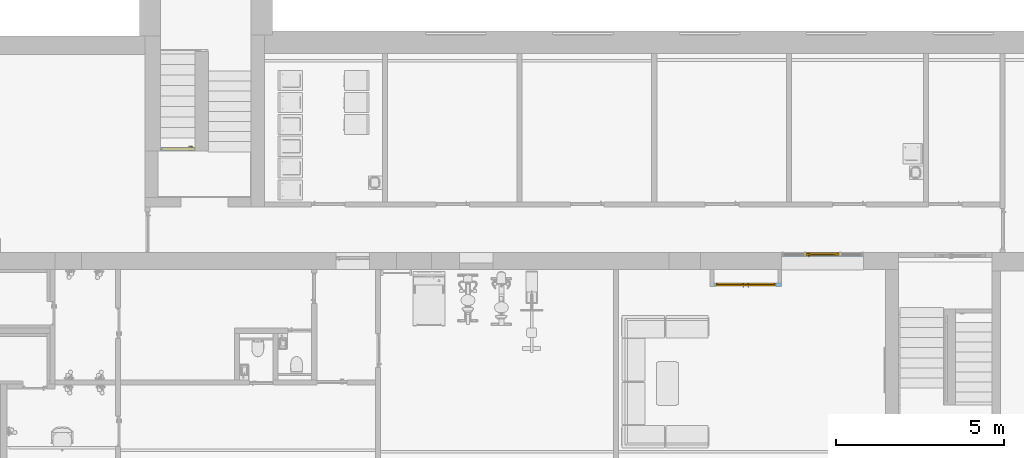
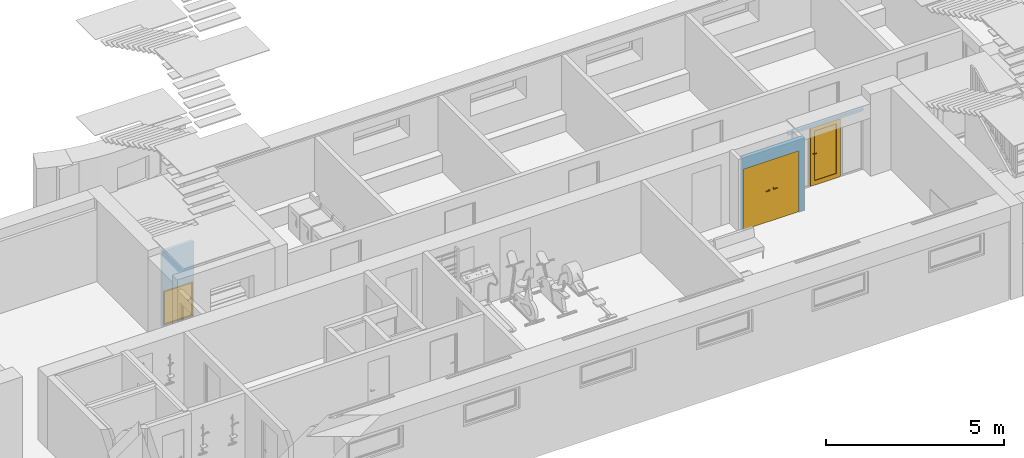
# One storey, part 13 of 23: 3 doors, 4 openings, plus 3 elements that do not belong to this part.
"""IFC2X3 building model written with IfcOpenShell, lengths in millimetres."""

from ifc_helpers import new_model, entity, si_unit, converted_unit, derived_unit, direction, frame, frame_2d, origin, origin_2d_with_axis, place, context, subcontext, project, spatial, rectangle, extrude, faceted_brep, source, transform, mapped, material, material_list, layer, layer_set, layer_usage, type_object, type_shapes, element, fill, save


model = new_model("IFC2X3")

# Units and contexts
model_context = context("Model", 3, precision=0.01, world=origin(), true_north=direction((6.12303176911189e-17, 1.0)))
body_context = subcontext(model_context, "Body", "Model", "MODEL_VIEW")
ifc_project = project(units=[si_unit("LENGTHUNIT", "METRE", prefix="MILLI"), si_unit("AREAUNIT", "SQUARE_METRE"), si_unit("VOLUMEUNIT", "CUBIC_METRE"), converted_unit("PLANEANGLEUNIT", "DEGREE", entity("IfcRatioMeasure", 0.0174532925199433), si_unit("PLANEANGLEUNIT", "RADIAN"), dimensions=[0, 0, 0, 0, 0, 0, 0]), si_unit("MASSUNIT", "GRAM", prefix="KILO"), derived_unit("MASSDENSITYUNIT", [(si_unit("MASSUNIT", "GRAM", prefix="KILO"), 1), (si_unit("LENGTHUNIT", "METRE"), -3)]), si_unit("TIMEUNIT", "SECOND"), si_unit("FREQUENCYUNIT", "HERTZ"), si_unit("THERMODYNAMICTEMPERATUREUNIT", "DEGREE_CELSIUS"), derived_unit("THERMALTRANSMITTANCEUNIT", [(si_unit("MASSUNIT", "GRAM", prefix="KILO"), 1), (si_unit("THERMODYNAMICTEMPERATUREUNIT", "KELVIN"), -1), (si_unit("TIMEUNIT", "SECOND"), -3)]), derived_unit("VOLUMETRICFLOWRATEUNIT", [(si_unit("LENGTHUNIT", "METRE"), 3), (si_unit("TIMEUNIT", "SECOND"), -1)]), si_unit("ELECTRICCURRENTUNIT", "AMPERE"), si_unit("ELECTRICVOLTAGEUNIT", "VOLT"), si_unit("POWERUNIT", "WATT"), si_unit("FORCEUNIT", "NEWTON", prefix="KILO"), si_unit("ILLUMINANCEUNIT", "LUX"), si_unit("LUMINOUSFLUXUNIT", "LUMEN"), si_unit("LUMINOUSINTENSITYUNIT", "CANDELA"), derived_unit("USERDEFINED", [(si_unit("MASSUNIT", "GRAM", prefix="KILO"), -1), (si_unit("LENGTHUNIT", "METRE"), -2), (si_unit("TIMEUNIT", "SECOND"), 3), (si_unit("LUMINOUSFLUXUNIT", "LUMEN"), 1)]), derived_unit("LINEARVELOCITYUNIT", [(si_unit("LENGTHUNIT", "METRE"), 1), (si_unit("TIMEUNIT", "SECOND"), -1)]), si_unit("PRESSUREUNIT", "PASCAL"), derived_unit("USERDEFINED", [(si_unit("LENGTHUNIT", "METRE"), -2), (si_unit("MASSUNIT", "GRAM", prefix="KILO"), 1), (si_unit("TIMEUNIT", "SECOND"), -2)]), derived_unit("LINEARFORCEUNIT", [(si_unit("MASSUNIT", "GRAM", prefix="KILO"), 1), (si_unit("LENGTHUNIT", "METRE"), 1), (si_unit("TIMEUNIT", "SECOND"), -2), (si_unit("LENGTHUNIT", "METRE"), -1)]), derived_unit("PLANARFORCEUNIT", [(si_unit("MASSUNIT", "GRAM", prefix="KILO"), 1), (si_unit("LENGTHUNIT", "METRE"), 1), (si_unit("TIMEUNIT", "SECOND"), -2), (si_unit("LENGTHUNIT", "METRE"), -2)])], contexts=[model_context])

# Site, building, storey
site_placement = place(None, origin())
site = spatial("IfcSite", under=ifc_project, at=site_placement, Name="Default", CompositionType="ELEMENT")
building_placement = place(site_placement, origin())
building = spatial("IfcBuilding", under=site, at=building_placement, Name="SMA ARH", CompositionType="ELEMENT")
storey_placement = place(building_placement, frame((0.0, 0.0, -2800.0)))
storey = spatial("IfcBuildingStorey", under=building, at=storey_placement, Name="0 Sokkel", CompositionType="ELEMENT", Elevation=-2800.0)

# Wall, opening, door
ifc_material_1 = material(Name="EST. Ehitusplaat. Kipsplaat")
ifc_layer_1 = layer(ifc_material_1, 12.5)
ifc_layer_2 = layer(ifc_material_1, 12.5)
ifc_material_2 = material(Name="EST. Soojustus. Mineraalvill. Default")
ifc_layer_3 = layer(ifc_material_2, 66.0)
ifc_layer_4 = layer(ifc_material_1, 12.5)
ifc_layer_5 = layer(ifc_material_1, 12.5)
ifc_layer_set_1 = layer_set([ifc_layer_1, ifc_layer_2, ifc_layer_3, ifc_layer_4, ifc_layer_5], Name="Basic Wall:SS-05_Kips, 66mm metallkarkass")
ifc_layer_usage_1 = layer_usage(ifc_layer_set_1, "AXIS2", "NEGATIVE", 58.0)
wall_type_1 = type_object("IfcWallType", Name="Basic Wall:SS-05_Kips, 66mm metallkarkass", PredefinedType="STANDARD", material=ifc_layer_set_1)
wall_1_placement = place(storey_placement, frame((25344.514781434, 5562.0, 0.0)))
wall_1 = element("IfcWallStandardCase", 1, at=wall_1_placement, inside=storey, type_object=wall_type_1, material=ifc_layer_usage_1, Name="Basic Wall:SS-05_Kips, 66mm metallkarkass", ObjectType="Basic Wall:SS-05_Kips, 66mm metallkarkass", context=body_context, shape_type="SweptSolid", body=[
    extrude(rectangle(XDim=2016.00000000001, YDim=116.0, at=frame_2d((1008.0, 0.0), x_axis=(-1.0, 0.0))), origin(), (0.0, 0.0, 1.0), 2480.0),
])
opening_1_placement = place(wall_1_placement, frame((1850.0, 58.0, 0.0)))
opening_1 = element("IfcOpeningElement", 2, at=opening_1_placement, cuts=wall_1, Name="SMA_D02, 2-poolne:SU-M-05 - 1800x2100:1", ObjectType="Opening", context=body_context, shape_type="SweptSolid", body=[
    extrude(rectangle(XDim=2099.99999999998, YDim=1800.0, at=frame_2d((1049.99999999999, 900.0), x_axis=(1.0, 0.0))), frame((0.0, 0.0, 0.0), z_axis=(0.0, -1.0, 0.0), x_axis=(0.0, 0.0, 1.0)), (0.0, 0.0, 1.0), 116.0),
])
ifc_material_3 = material(Name="EST. Metall. Plekk. Värvitud. RAL7023 (Concrete grey)")
ifc_material_4 = material(Name="<Unnamed>")
ifc_material_5 = material(Name="EST. Klaas. 3x. Default")
ifc_material_list_1 = material_list([ifc_material_4, ifc_material_3, ifc_material_3, ifc_material_3, ifc_material_4, ifc_material_5, ifc_material_4])
door_style_1 = type_object("IfcDoorStyle", Name="SMA_D02, 2-poolne:SU-M-05 - 1800x2100", ConstructionType="NOTDEFINED", OperationType="NOTDEFINED", ParameterTakesPrecedence=False, Sizeable=False, material=ifc_material_list_1)
shared_shape_1 = source(origin(), body_context, "Body", "Brep", [
    faceted_brep([(812.49999999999, 6.0, 1100.0), (717.49999999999, 6.0, 1100.0), (717.49999999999, 1.0, 1100.0), (837.49999999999, 1.0, 1100.0), (837.49999999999, 44.0, 1100.0), (812.49999999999, 44.0, 1100.0), (812.49999999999, 6.0, 1075.0), (812.49999999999, 44.0, 1075.0), (837.49999999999, 44.0, 1075.0), (837.49999999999, 1.0, 1075.0), (717.49999999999, 1.0, 1075.0), (717.49999999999, 6.0, 1075.0)], [[[0, 1, 2, 3, 4, 5]], [[6, 7, 8, 9, 10, 11]], [[5, 7, 6, 0]], [[4, 8, 7, 5]], [[3, 9, 8, 4]], [[2, 10, 9, 3]], [[1, 11, 10, 2]], [[0, 6, 11, 1]]]),
    faceted_brep([(800.0, 44.0, 1125.0), (850.0, 44.0, 1125.0), (850.0, 46.0, 1125.0), (800.0, 46.0, 1125.0), (800.0, 44.0, 1005.0), (800.0, 46.0, 1005.0), (850.0, 46.0, 1005.0), (850.0, 44.0, 1005.0)], [[[0, 1, 2, 3]], [[4, 5, 6, 7]], [[3, 5, 4, 0]], [[2, 6, 5, 3]], [[1, 7, 6, 2]], [[0, 4, 7, 1]]]),
    faceted_brep([(812.499999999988, 136.0, 1100.0), (812.499999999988, 98.0, 1100.0), (837.499999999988, 98.0, 1100.0), (837.499999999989, 141.0, 1100.0), (717.499999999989, 141.0, 1100.0), (717.499999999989, 136.0, 1100.0), (812.499999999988, 136.0, 1075.0), (717.499999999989, 136.0, 1075.0), (717.499999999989, 141.0, 1075.0), (837.499999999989, 141.0, 1075.0), (837.499999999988, 98.0, 1075.0), (812.499999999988, 98.0, 1075.0)], [[[0, 1, 2, 3, 4, 5]], [[6, 7, 8, 9, 10, 11]], [[1, 0, 6, 11]], [[2, 1, 11, 10]], [[3, 2, 10, 9]], [[4, 3, 9, 8]], [[5, 4, 8, 7]], [[0, 5, 7, 6]]]),
    faceted_brep([(800.0, 98.0, 1125.0), (800.0, 96.0, 1125.0), (850.0, 96.0, 1125.0), (850.0, 98.0, 1125.0), (800.0, 98.0, 1005.0), (850.0, 98.0, 1005.0), (850.0, 96.0, 1005.0), (800.0, 96.0, 1005.0)], [[[0, 1, 2, 3]], [[4, 5, 6, 7]], [[1, 0, 4, 7]], [[2, 1, 7, 6]], [[3, 2, 6, 5]], [[0, 3, 5, 4]]]),
    faceted_brep([(987.499999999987, 6.0, 1100.0), (987.499999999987, 44.0, 1100.0), (962.499999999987, 44.0, 1100.0), (962.499999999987, 1.0, 1100.0), (1082.49999999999, 1.0, 1100.0), (1082.49999999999, 6.0, 1100.0), (987.499999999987, 6.0, 1075.0), (1082.49999999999, 6.0, 1075.0), (1082.49999999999, 1.0, 1075.0), (962.499999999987, 1.0, 1075.0), (962.499999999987, 44.0, 1075.0), (987.499999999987, 44.0, 1075.0)], [[[0, 1, 2, 3, 4, 5]], [[6, 7, 8, 9, 10, 11]], [[1, 0, 6, 11]], [[2, 1, 11, 10]], [[3, 2, 10, 9]], [[4, 3, 9, 8]], [[5, 4, 8, 7]], [[0, 5, 7, 6]]]),
    faceted_brep([(1000.0, 44.0, 1125.0), (1000.0, 46.0, 1125.0), (950.0, 46.0, 1125.0), (950.0, 44.0, 1125.0), (1000.0, 44.0, 1005.0), (950.0, 44.0, 1005.0), (950.0, 46.0, 1005.0), (1000.0, 46.0, 1005.0)], [[[0, 1, 2, 3]], [[4, 5, 6, 7]], [[1, 0, 4, 7]], [[2, 1, 7, 6]], [[3, 2, 6, 5]], [[0, 3, 5, 4]]]),
    faceted_brep([(987.499999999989, 136.0, 1100.0), (1082.49999999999, 136.0, 1100.0), (1082.49999999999, 141.0, 1100.0), (962.499999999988, 141.0, 1100.0), (962.499999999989, 98.0, 1100.0), (987.499999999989, 98.0, 1100.0), (987.499999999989, 136.0, 1075.0), (987.499999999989, 98.0, 1075.0), (962.499999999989, 98.0, 1075.0), (962.499999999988, 141.0, 1075.0), (1082.49999999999, 141.0, 1075.0), (1082.49999999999, 136.0, 1075.0)], [[[0, 1, 2, 3, 4, 5]], [[6, 7, 8, 9, 10, 11]], [[5, 7, 6, 0]], [[4, 8, 7, 5]], [[3, 9, 8, 4]], [[2, 10, 9, 3]], [[1, 11, 10, 2]], [[0, 6, 11, 1]]]),
    faceted_brep([(1000.0, 98.0, 1125.0), (950.0, 98.0, 1125.0), (950.0, 96.0, 1125.0), (1000.0, 96.0, 1125.0), (1000.0, 98.0, 1005.0), (1000.0, 96.0, 1005.0), (950.0, 96.0, 1005.0), (950.0, 98.0, 1005.0)], [[[0, 1, 2, 3]], [[4, 5, 6, 7]], [[3, 5, 4, 0]], [[2, 6, 5, 3]], [[1, 7, 6, 2]], [[0, 4, 7, 1]]]),
    faceted_brep([(1750.0, 6.0, 30.0), (1750.0, 6.0, 0.0), (1750.0, 46.0, 0.0), (1750.0, 46.0, 20.0), (1750.0, 46.0, 30.0), (50.0, 6.0, 30.0), (50.0, 46.0, 30.0), (50.0, 46.0, 20.0), (50.0, 46.0, 0.0), (50.0, 6.0, 0.0), (35.0, 46.0, 0.0), (35.0, 96.0, 0.0), (1765.0, 96.0, 0.0), (1765.0, 46.0, 0.0), (1765.0, 96.0, 20.0), (1765.0, 46.0, 20.0), (35.0, 96.0, 20.0), (35.0, 46.0, 20.0)], [[[0, 1, 2, 3, 4]], [[5, 6, 7, 8, 9]], [[1, 0, 5, 9]], [[2, 1, 9, 8, 10, 11, 12, 13]], [[6, 4, 3, 7]], [[0, 4, 6, 5]], [[14, 15, 13, 12]], [[16, 11, 10, 17]], [[15, 14, 16, 17, 7, 3]], [[13, 15, 3, 2]], [[14, 12, 11, 16]], [[17, 10, 8, 7]]]),
    faceted_brep([(1790.0, 6.0, 0.0), (1750.0, 6.0, 0.0), (1750.0, 46.0, 0.0), (1765.0, 46.0, 0.0), (1765.0, 96.0, 0.0), (1790.0, 96.0, 0.0), (1790.0, 6.0, 2090.0), (10.0, 6.0, 2090.0), (10.0, 6.0, 0.0), (50.0, 6.0, 0.0), (50.0, 6.0, 2050.0), (1750.0, 6.0, 2050.0), (1750.0, 46.0, 2050.0), (50.0, 46.0, 2050.0), (50.0, 46.0, 0.0), (35.0, 46.0, 0.0), (35.0, 46.0, 2065.0), (1765.0, 46.0, 2065.0), (1765.0, 96.0, 2065.0), (35.0, 96.0, 2065.0), (35.0, 96.0, 0.0), (10.0, 96.0, 0.0), (10.0, 96.0, 2090.0), (1790.0, 96.0, 2090.0)], [[[0, 1, 2, 3, 4, 5]], [[1, 0, 6, 7, 8, 9, 10, 11]], [[2, 1, 11, 12]], [[3, 2, 12, 13, 14, 15, 16, 17]], [[4, 3, 17, 18]], [[5, 4, 18, 19, 20, 21, 22, 23]], [[0, 5, 23, 6]], [[8, 7, 22, 21]], [[9, 8, 21, 20, 15, 14]], [[10, 9, 14, 13]], [[16, 15, 20, 19]], [[11, 10, 13, 12]], [[17, 16, 19, 18]], [[7, 6, 23, 22]]]),
    faceted_brep([(35.0, 46.0, 20.0), (900.0, 46.0, 20.0), (900.0, 46.0, 2065.0), (35.0, 46.0, 2065.0), (35.0, 96.0, 20.0), (35.0, 96.0, 2065.0), (900.0, 96.0, 2065.0), (900.0, 96.0, 20.0)], [[[0, 1, 2, 3]], [[4, 5, 6, 7]], [[1, 0, 4, 7]], [[2, 1, 7, 6]], [[3, 2, 6, 5]], [[0, 3, 5, 4]]]),
    faceted_brep([(1765.0, 46.0, 2075.0), (900.0, 46.0, 2075.0), (900.0, 46.0, 20.0), (1765.0, 46.0, 20.0), (1765.0, 96.0, 2075.0), (1765.0, 96.0, 20.0), (900.0, 96.0, 20.0), (900.0, 96.0, 2075.0)], [[[0, 1, 2, 3]], [[4, 5, 6, 7]], [[1, 0, 4, 7]], [[2, 1, 7, 6]], [[3, 2, 6, 5]], [[0, 3, 5, 4]]]),
])
type_shapes(door_style_1, [shared_shape_1])
door_1_placement = place(opening_1_placement, frame((0.0, 0.0, 0.0), z_axis=(0.0, 0.0, 1.0), x_axis=(-1.0, 0.0, 0.0)))
door_1 = element("IfcDoor", 3, at=door_1_placement, inside=storey, type_object=door_style_1, material=ifc_material_3, Name="SMA_D02, 2-poolne:SU-M-05 - 1800x2100", ObjectType="SMA_D02, 2-poolne:SU-M-05 - 1800x2100", OverallHeight=2099.99999999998, OverallWidth=1800.0, context=body_context, shape_type="MappedRepresentation", body=[
    mapped(shared_shape_1, transform((0.0, 0.0, 0.0), scale=1.0)),
])
fill(opening_1, door_1)

# Wall, openings, door
ifc_layer_6 = layer(ifc_material_1, 12.5)
ifc_layer_7 = layer(ifc_material_1, 12.5)
ifc_material_6 = material(Name="EST. Õhkvahe. Roov. Kipsplaadi alusroov. Vertikaalne")
ifc_layer_8 = layer(ifc_material_6, 66.0)
ifc_layer_9 = layer(ifc_material_1, 12.5)
ifc_layer_10 = layer(ifc_material_1, 12.5)
ifc_layer_set_2 = layer_set([ifc_layer_6, ifc_layer_7, ifc_layer_8, ifc_layer_9, ifc_layer_10], Name="Basic Wall:SS-03_Kips, 66mm metallkarkass")
ifc_layer_usage_2 = layer_usage(ifc_layer_set_2, "AXIS2", "NEGATIVE", 58.0)
wall_type_2 = type_object("IfcWallType", Name="Basic Wall:SS-03_Kips, 66mm metallkarkass", PredefinedType="STANDARD", material=ifc_layer_set_2)
wall_2_placement = place(storey_placement, frame((27360.0, 6462.0, 2000.0)))
wall_2 = element("IfcWallStandardCase", 4, at=wall_2_placement, inside=storey, type_object=wall_type_2, material=ifc_layer_usage_2, Name="Basic Wall:SS-03_Kips, 66mm metallkarkass", ObjectType="Basic Wall:SS-03_Kips, 66mm metallkarkass", context=body_context, shape_type="SweptSolid", body=[
    extrude(rectangle(XDim=2429.52424986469, YDim=116.0, at=frame_2d((1214.76212493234, -2.8421709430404e-14), x_axis=(-1.0, 0.0))), origin(), (0.0, 0.0, 1.0), 100.0),
])
opening_2_placement = place(wall_2_placement, origin())
element("IfcOpeningElement", 5, at=opening_2_placement, cuts=wall_2, Name="Basic Wall:SS-03_Kips, 66mm metallkarkass", ObjectType="Opening", context=body_context, shape_type="SweptSolid", body=[
    extrude(rectangle(XDim=2000.0, YDim=715.000000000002, at=origin_2d_with_axis()), frame((2072.02424986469, -210.4, -1000.0), z_axis=(0.0, 1.0, 0.0), x_axis=(0.0, 0.0, -1.0)), (0.0, 0.0, 1.0), 420.8),
    extrude(rectangle(XDim=2000.0, YDim=714.524249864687, at=frame_2d((-1.70530256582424e-13, 0.0), x_axis=(1.0, 0.0))), frame((357.262124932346, -210.4, -1000.0), z_axis=(0.0, 1.0, 0.0), x_axis=(0.0, 0.0, 1.0)), (0.0, 0.0, 1.0), 420.8),
])
opening_3_placement = place(wall_2_placement, frame((1714.524249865, 58.0, -2000.0)))
opening_3 = element("IfcOpeningElement", 6, at=opening_3_placement, cuts=wall_2, Name="SMA_D01, 1-poolne:SU-P-10 - 1000x2000:1", ObjectType="Opening", context=body_context, shape_type="SweptSolid", body=[
    extrude(rectangle(XDim=1999.99999999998, YDim=1000.0, at=frame_2d((999.99999999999, 500.0), x_axis=(1.0, 0.0))), frame((0.0, 0.0, 0.0), z_axis=(0.0, -1.0, 0.0), x_axis=(0.0, 0.0, 1.0)), (0.0, 0.0, 1.0), 116.0),
])
ifc_material_7 = material(Name="EST. Metall. Alumiinium. Värvitud. RAL7023 (Concrete grey)")
ifc_material_8 = material(Name="__Aknaraam")
ifc_material_list_2 = material_list([ifc_material_7, ifc_material_8, ifc_material_5])
ifc_material_list_3 = material_list([ifc_material_4, ifc_material_4, ifc_material_7, ifc_material_5, ifc_material_8, ifc_material_8, ifc_material_4])
door_style_2 = type_object("IfcDoorStyle", Name="SMA_D01, 1-poolne:SU-P-10 - 1000x2000", ConstructionType="NOTDEFINED", OperationType="NOTDEFINED", ParameterTakesPrecedence=False, Sizeable=False, material=ifc_material_list_3)
shared_shape_2 = source(origin(), body_context, "Body", "Brep", [
    faceted_brep([(890.0, 6.0, 1112.5), (795.0, 6.0, 1112.5), (795.0, 1.0, 1112.5), (915.0, 1.0, 1112.5), (915.0, 44.0, 1112.5), (890.0, 44.0, 1112.5), (890.0, 6.0, 1087.5), (890.0, 44.0, 1087.5), (915.0, 44.0, 1087.5), (915.0, 1.0, 1087.5), (795.0, 1.0, 1087.5), (795.0, 6.0, 1087.5)], [[[0, 1, 2, 3, 4, 5]], [[6, 7, 8, 9, 10, 11]], [[5, 7, 6, 0]], [[4, 8, 7, 5]], [[3, 9, 8, 4]], [[2, 10, 9, 3]], [[1, 11, 10, 2]], [[0, 6, 11, 1]]]),
    faceted_brep([(877.500000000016, 44.0, 1137.5), (927.500000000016, 44.0, 1137.5), (927.500000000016, 46.0, 1137.5), (877.500000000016, 46.0, 1137.5), (877.500000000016, 44.0, 1017.5), (877.500000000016, 46.0, 1017.5), (927.500000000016, 46.0, 1017.5), (927.500000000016, 44.0, 1017.5)], [[[0, 1, 2, 3]], [[4, 5, 6, 7]], [[3, 5, 4, 0]], [[2, 6, 5, 3]], [[1, 7, 6, 2]], [[0, 4, 7, 1]]]),
    faceted_brep([(890.0, 136.0, 1112.5), (890.0, 98.0, 1112.5), (915.0, 98.0, 1112.5), (915.0, 141.0, 1112.5), (795.0, 141.0, 1112.5), (795.0, 136.0, 1112.5), (890.0, 136.0, 1087.5), (795.0, 136.0, 1087.5), (795.0, 141.0, 1087.5), (915.0, 141.0, 1087.5), (915.0, 98.0, 1087.5), (890.0, 98.0, 1087.5)], [[[0, 1, 2, 3, 4, 5]], [[6, 7, 8, 9, 10, 11]], [[1, 0, 6, 11]], [[2, 1, 11, 10]], [[3, 2, 10, 9]], [[4, 3, 9, 8]], [[5, 4, 8, 7]], [[0, 5, 7, 6]]]),
    faceted_brep([(877.500000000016, 98.0, 1137.5), (877.500000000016, 96.0, 1137.5), (927.500000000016, 96.0, 1137.5), (927.500000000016, 98.0, 1137.5), (877.500000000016, 98.0, 1017.5), (927.500000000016, 98.0, 1017.5), (927.500000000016, 96.0, 1017.5), (877.500000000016, 96.0, 1017.5)], [[[0, 1, 2, 3]], [[4, 5, 6, 7]], [[1, 0, 4, 7]], [[2, 1, 7, 6]], [[3, 2, 6, 5]], [[0, 3, 5, 4]]]),
    faceted_brep([(50.0, 6.0, 30.0), (50.0, 46.0, 30.0), (50.0, 46.0, 20.0), (50.0, 46.0, 0.0), (50.0, 6.0, 0.0), (950.0, 6.0, 30.0), (950.0, 6.0, 0.0), (950.0, 46.0, 0.0), (950.0, 46.0, 20.0), (950.0, 46.0, 30.0), (35.0, 46.0, 0.0), (35.0, 96.0, 0.0), (965.0, 96.0, 0.0), (965.0, 46.0, 0.0), (35.0, 96.0, 20.0), (35.0, 46.0, 20.0), (965.0, 96.0, 20.0), (965.0, 46.0, 20.0)], [[[0, 1, 2, 3, 4]], [[5, 6, 7, 8, 9]], [[4, 6, 5, 0]], [[3, 10, 11, 12, 13, 7, 6, 4]], [[9, 8, 2, 1]], [[0, 5, 9, 1]], [[14, 11, 10, 15]], [[16, 17, 13, 12]], [[15, 2, 8, 17, 16, 14]], [[10, 3, 2, 15]], [[14, 16, 12, 11]], [[17, 8, 7, 13]]]),
    faceted_brep([(10.0, 6.0, 0.0), (10.0, 96.0, 0.0), (35.0, 96.0, 0.0), (35.0, 46.0, 0.0), (50.0, 46.0, 0.0), (50.0, 6.0, 0.0), (50.0, 6.0, 1950.0), (950.0, 6.0, 1950.0), (950.0, 6.0, 0.0), (990.0, 6.0, 0.0), (990.0, 6.0, 1990.0), (10.0, 6.0, 1990.0), (50.0, 46.0, 1950.0), (35.0, 46.0, 1965.0), (965.0, 46.0, 1965.0), (965.0, 46.0, 0.0), (950.0, 46.0, 0.0), (950.0, 46.0, 1950.0), (35.0, 96.0, 1965.0), (10.0, 96.0, 1990.0), (990.0, 96.0, 1990.0), (990.0, 96.0, 0.0), (965.0, 96.0, 0.0), (965.0, 96.0, 1965.0)], [[[0, 1, 2, 3, 4, 5]], [[5, 6, 7, 8, 9, 10, 11, 0]], [[4, 12, 6, 5]], [[3, 13, 14, 15, 16, 17, 12, 4]], [[2, 18, 13, 3]], [[1, 19, 20, 21, 22, 23, 18, 2]], [[0, 11, 19, 1]], [[9, 21, 20, 10]], [[8, 16, 15, 22, 21, 9]], [[7, 17, 16, 8]], [[14, 23, 22, 15]], [[6, 12, 17, 7]], [[13, 18, 23, 14]], [[10, 20, 19, 11]]]),
    faceted_brep([(150.0, 61.0, 150.0), (850.0, 61.0, 150.0), (850.0, 61.0, 1850.0), (150.0, 61.0, 1850.0), (150.0, 81.0, 150.0), (150.0, 81.0, 1850.0), (850.0, 81.0, 1850.0), (850.0, 81.0, 150.0)], [[[0, 1, 2, 3]], [[4, 5, 6, 7]], [[3, 5, 4, 0]], [[2, 6, 5, 3]], [[1, 7, 6, 2]], [[0, 4, 7, 1]]]),
    faceted_brep([(35.0, 46.0, 20.0), (965.0, 46.0, 20.0), (965.0, 46.0, 1965.0), (35.0, 46.0, 1965.0), (850.0, 46.0, 150.0), (150.0, 46.0, 150.0), (150.0, 46.0, 1850.0), (850.0, 46.0, 1850.0), (35.0, 96.0, 20.0), (35.0, 96.0, 1965.0), (965.0, 96.0, 1965.0), (965.0, 96.0, 20.0), (850.0, 96.0, 1850.0), (150.0, 96.0, 1850.0), (150.0, 96.0, 150.0), (850.0, 96.0, 150.0)], [[[0, 1, 2, 3], [4, 5, 6, 7]], [[8, 9, 10, 11], [12, 13, 14, 15]], [[3, 9, 8, 0]], [[2, 10, 9, 3]], [[1, 11, 10, 2]], [[0, 8, 11, 1]], [[12, 15, 4, 7]], [[15, 14, 5, 4]], [[14, 13, 6, 5]], [[7, 6, 13, 12]]]),
])
type_shapes(door_style_2, [shared_shape_2])
door_2_placement = place(opening_3_placement, frame((0.0, 0.0, 0.0), z_axis=(0.0, 0.0, 1.0), x_axis=(-1.0, 0.0, 0.0)))
door_2 = element("IfcDoor", 7, at=door_2_placement, inside=storey, type_object=door_style_2, material=ifc_material_list_2, Name="SMA_D01, 1-poolne:SU-P-10 - 1000x2000", ObjectType="SMA_D01, 1-poolne:SU-P-10 - 1000x2000", OverallHeight=1999.99999999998, OverallWidth=999.999999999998, context=body_context, shape_type="MappedRepresentation", body=[
    mapped(shared_shape_2, transform((0.0, 0.0, 0.0), scale=1.0)),
])
fill(opening_3, door_2)

# Wall, opening, door
ifc_material_9 = material(Name="EST. Müüritis. Väikeplokk. Poorbetoonplokk")
ifc_layer_11 = layer(ifc_material_9, 100.0)
ifc_layer_set_3 = layer_set([ifc_layer_11], Name="Basic Wall:SS-00_Bauroc 100mm")
ifc_layer_usage_3 = layer_usage(ifc_layer_set_3, "AXIS2", "NEGATIVE", 50.0)
wall_type_3 = type_object("IfcWallType", Name="Basic Wall:SS-00_Bauroc 100mm", PredefinedType="STANDARD", material=ifc_layer_set_3)
wall_3_placement = place(storey_placement, frame((9935.0, 9585.0, 0.0), z_axis=(0.0, 0.0, 1.0), x_axis=(-1.0, 0.0, 0.0)))
wall_3 = element("IfcWallStandardCase", 8, at=wall_3_placement, inside=storey, type_object=wall_type_3, material=ifc_layer_usage_3, Name="Basic Wall:SS-00_Bauroc 100mm", ObjectType="Basic Wall:SS-00_Bauroc 100mm", context=body_context, shape_type="SweptSolid", body=[
    extrude(rectangle(XDim=1024.99999999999, YDim=99.9999999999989, at=frame_2d((512.499999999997, 1.52766688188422e-13), x_axis=(-1.0, 0.0))), origin(), (0.0, 0.0, 1.0), 2600.0),
])
opening_4_placement = place(wall_3_placement, frame((997.499999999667, 50.0, 40.0)))
opening_4 = element("IfcOpeningElement", 9, at=opening_4_placement, cuts=wall_3, Name="SMA_D01, 1-poolne:SU-M-06 - 1000x1200 EI-30:1", ObjectType="Opening", context=body_context, shape_type="SweptSolid", body=[
    extrude(rectangle(XDim=1199.99999999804, YDim=1000.0, at=frame_2d((599.999999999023, 500.0), x_axis=(1.0, 0.0))), frame((0.0, 0.0, 0.0), z_axis=(0.0, -1.0, 0.0), x_axis=(0.0, 0.0, 1.0)), (0.0, 0.0, 1.0), 100.0),
])
ifc_material_list_4 = material_list([ifc_material_4, ifc_material_5, ifc_material_4, ifc_material_4, ifc_material_7, ifc_material_7, ifc_material_7])
door_style_3 = type_object("IfcDoorStyle", Name="SMA_D01, 1-poolne:SU-M-06 - 1000x1200 EI-30", ConstructionType="NOTDEFINED", OperationType="NOTDEFINED", ParameterTakesPrecedence=False, Sizeable=False, material=ifc_material_list_4)
shared_shape_3 = source(origin(), body_context, "Body", "Brep", [
    faceted_brep([(890.0, 10.0, 612.5), (795.0, 10.0, 612.5), (795.0, 5.0, 612.5), (915.0, 5.0, 612.5), (915.0, 48.0, 612.5), (890.0, 48.0, 612.5), (890.0, 10.0, 587.5), (890.0, 48.0, 587.5), (915.0, 48.0, 587.5), (915.0, 5.0, 587.5), (795.0, 5.0, 587.5), (795.0, 10.0, 587.5)], [[[0, 1, 2, 3, 4, 5]], [[6, 7, 8, 9, 10, 11]], [[5, 7, 6, 0]], [[4, 8, 7, 5]], [[3, 9, 8, 4]], [[2, 10, 9, 3]], [[1, 11, 10, 2]], [[0, 6, 11, 1]]]),
    faceted_brep([(877.500000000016, 48.0, 637.5), (927.500000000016, 48.0, 637.5), (927.500000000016, 50.0, 637.5), (877.500000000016, 50.0, 637.5), (877.500000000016, 48.0, 517.5), (877.500000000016, 50.0, 517.5), (927.500000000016, 50.0, 517.5), (927.500000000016, 48.0, 517.5)], [[[0, 1, 2, 3]], [[4, 5, 6, 7]], [[3, 5, 4, 0]], [[2, 6, 5, 3]], [[1, 7, 6, 2]], [[0, 4, 7, 1]]]),
    faceted_brep([(890.0, 140.0, 612.5), (890.0, 102.0, 612.5), (915.0, 102.0, 612.5), (915.0, 145.0, 612.5), (795.0, 145.0, 612.5), (795.0, 140.0, 612.5), (890.0, 140.0, 587.5), (795.0, 140.0, 587.5), (795.0, 145.0, 587.5), (915.0, 145.0, 587.5), (915.0, 102.0, 587.5), (890.0, 102.0, 587.5)], [[[0, 1, 2, 3, 4, 5]], [[6, 7, 8, 9, 10, 11]], [[1, 0, 6, 11]], [[2, 1, 11, 10]], [[3, 2, 10, 9]], [[4, 3, 9, 8]], [[5, 4, 8, 7]], [[0, 5, 7, 6]]]),
    faceted_brep([(877.500000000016, 102.0, 637.5), (877.500000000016, 100.0, 637.5), (927.500000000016, 100.0, 637.5), (927.500000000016, 102.0, 637.5), (877.500000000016, 102.0, 517.5), (927.500000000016, 102.0, 517.5), (927.500000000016, 100.0, 517.5), (877.500000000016, 100.0, 517.5)], [[[0, 1, 2, 3]], [[4, 5, 6, 7]], [[1, 0, 4, 7]], [[2, 1, 7, 6]], [[3, 2, 6, 5]], [[0, 3, 5, 4]]]),
    faceted_brep([(10.0, 10.0, 0.0), (10.0, 100.0, 0.0), (35.0, 100.0, 0.0), (35.0, 50.0, 0.0), (50.0, 50.0, 0.0), (50.0, 10.0, 0.0), (50.0, 10.0, 1150.0), (950.0, 10.0, 1150.0), (950.0, 10.0, 0.0), (990.0, 10.0, 0.0), (990.0, 10.0, 1190.0), (10.0, 10.0, 1190.0), (50.0, 50.0, 1150.0), (35.0, 50.0, 1165.0), (965.0, 50.0, 1165.0), (965.0, 50.0, 0.0), (950.0, 50.0, 0.0), (950.0, 50.0, 1150.0), (35.0, 100.0, 1165.0), (10.0, 100.0, 1190.0), (990.0, 100.0, 1190.0), (990.0, 100.0, 0.0), (965.0, 100.0, 0.0), (965.0, 100.0, 1165.0)], [[[0, 1, 2, 3, 4, 5]], [[5, 6, 7, 8, 9, 10, 11, 0]], [[4, 12, 6, 5]], [[3, 13, 14, 15, 16, 17, 12, 4]], [[2, 18, 13, 3]], [[1, 19, 20, 21, 22, 23, 18, 2]], [[0, 11, 19, 1]], [[9, 21, 20, 10]], [[8, 16, 15, 22, 21, 9]], [[7, 17, 16, 8]], [[14, 23, 22, 15]], [[6, 12, 17, 7]], [[13, 18, 23, 14]], [[10, 20, 19, 11]]]),
    faceted_brep([(50.0, 10.0, 30.0), (50.0, 50.0, 30.0), (50.0, 50.0, 20.0), (50.0, 50.0, 0.0), (50.0, 10.0, 0.0), (950.0, 10.0, 30.0), (950.0, 10.0, 0.0), (950.0, 50.0, 0.0), (950.0, 50.0, 20.0), (950.0, 50.0, 30.0), (35.0, 50.0, 0.0), (35.0, 100.0, 0.0), (965.0, 100.0, 0.0), (965.0, 50.0, 0.0), (35.0, 100.0, 20.0), (35.0, 50.0, 20.0), (965.0, 100.0, 20.0), (965.0, 50.0, 20.0)], [[[0, 1, 2, 3, 4]], [[5, 6, 7, 8, 9]], [[4, 6, 5, 0]], [[3, 10, 11, 12, 13, 7, 6, 4]], [[9, 8, 2, 1]], [[0, 5, 9, 1]], [[14, 11, 10, 15]], [[16, 17, 13, 12]], [[15, 2, 8, 17, 16, 14]], [[10, 3, 2, 15]], [[14, 16, 12, 11]], [[17, 8, 7, 13]]]),
    faceted_brep([(965.0, 50.0, 1165.0), (35.0, 50.0, 1165.0), (35.0, 50.0, 20.0), (965.0, 50.0, 20.0), (965.0, 100.0, 1165.0), (965.0, 100.0, 20.0), (35.0, 100.0, 20.0), (35.0, 100.0, 1165.0)], [[[0, 1, 2, 3]], [[4, 5, 6, 7]], [[3, 5, 4, 0]], [[2, 6, 5, 3]], [[1, 7, 6, 2]], [[0, 4, 7, 1]]]),
])
type_shapes(door_style_3, [shared_shape_3])
door_3_placement = place(opening_4_placement, frame((0.0, 0.0, 0.0), z_axis=(0.0, 0.0, 1.0), x_axis=(-1.0, 0.0, 0.0)))
door_3 = element("IfcDoor", 10, at=door_3_placement, inside=storey, type_object=door_style_3, material=ifc_material_7, Name="SMA_D01, 1-poolne:SU-M-06 - 1000x1200 EI-30", ObjectType="SMA_D01, 1-poolne:SU-M-06 - 1000x1200 EI-30", OverallHeight=1199.99999999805, OverallWidth=1000.0, context=body_context, shape_type="MappedRepresentation", body=[
    mapped(shared_shape_3, transform((0.0, 0.0, 0.0), scale=1.0)),
])
fill(opening_4, door_3)

save(model, "model.ifc")
